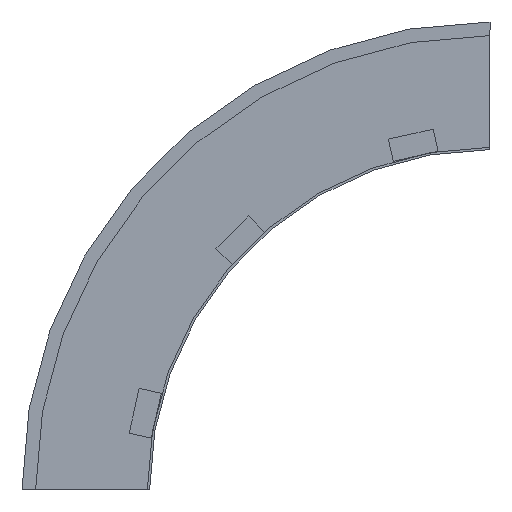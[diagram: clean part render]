
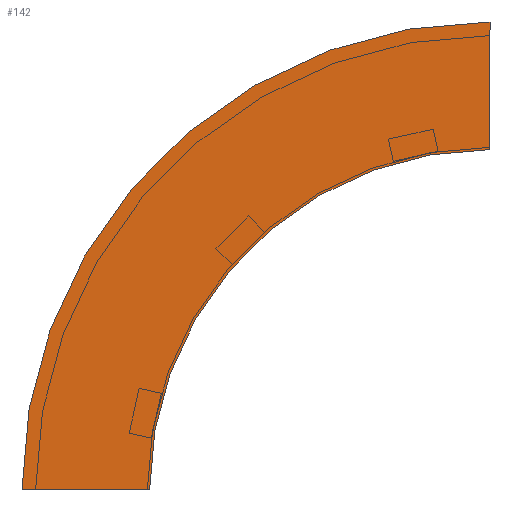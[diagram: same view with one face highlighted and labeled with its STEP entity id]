
A CAD part, left-side view. The second image highlights one B-rep face of the part: STEP entity #142.
In plain terms, the highlighted planar face has unit normal (-1, 0, 0) as drawn and (1, 0, 0) by its records, which use the part's own axes.
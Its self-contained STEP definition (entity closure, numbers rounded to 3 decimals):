
#28 = CARTESIAN_POINT ( 'NONE',  ( 0., -300., 0. ) ) ;
#34 = CIRCLE ( 'NONE', #82, 300. ) ;
#35 = ORIENTED_EDGE ( 'NONE', *, *, #509, .T. ) ;
#39 = LINE ( 'NONE', #44, #443 ) ;
#44 = CARTESIAN_POINT ( 'NONE',  ( 0., -300., 300. ) ) ;
#77 = DIRECTION ( 'NONE',  ( 0., 0., -1. ) ) ;
#82 = AXIS2_PLACEMENT_3D ( 'NONE', #28, #187, #152 ) ;
#86 = VERTEX_POINT ( 'NONE', #529 ) ;
#103 = CARTESIAN_POINT ( 'NONE',  ( 0., -300., 300. ) ) ;
#110 = CARTESIAN_POINT ( 'NONE',  ( 0., -300., 412.5 ) ) ;
#119 = ORIENTED_EDGE ( 'NONE', *, *, #486, .F. ) ;
#142 = ADVANCED_FACE ( 'NONE', ( #342 ), #569, .T. ) ;
#152 = DIRECTION ( 'NONE',  ( 0., 1., 0. ) ) ;
#175 = AXIS2_PLACEMENT_3D ( 'NONE', #503, #553, #464 ) ;
#187 = DIRECTION ( 'NONE',  ( 1., 0., 0. ) ) ;
#208 = CIRCLE ( 'NONE', #175, 412.5 ) ;
#214 = EDGE_CURVE ( 'NONE', #372, #543, #208, .T. ) ;
#228 = VECTOR ( 'NONE', #439, 1000. ) ;
#259 = VERTEX_POINT ( 'NONE', #103 ) ;
#261 = CARTESIAN_POINT ( 'NONE',  ( 0., 0., 0. ) ) ;
#265 = LINE ( 'NONE', #261, #228 ) ;
#332 = EDGE_LOOP ( 'NONE', ( #564, #119, #376, #35 ) ) ;
#342 = FACE_OUTER_BOUND ( 'NONE', #332, .T. ) ;
#372 = VERTEX_POINT ( 'NONE', #512 ) ;
#375 = EDGE_CURVE ( 'NONE', #86, #259, #34, .T. ) ;
#376 = ORIENTED_EDGE ( 'NONE', *, *, #375, .F. ) ;
#391 = DIRECTION ( 'NONE',  ( 0., 0., 1. ) ) ;
#429 = CARTESIAN_POINT ( 'NONE',  ( 0., 0., 0. ) ) ;
#439 = DIRECTION ( 'NONE',  ( 0., 1., 0. ) ) ;
#443 = VECTOR ( 'NONE', #391, 1000. ) ;
#464 = DIRECTION ( 'NONE',  ( 0., 1., 0. ) ) ;
#486 = EDGE_CURVE ( 'NONE', #259, #543, #39, .T. ) ;
#503 = CARTESIAN_POINT ( 'NONE',  ( 0., -300., 0. ) ) ;
#509 = EDGE_CURVE ( 'NONE', #86, #372, #265, .T. ) ;
#512 = CARTESIAN_POINT ( 'NONE',  ( 0., 112.5, 0. ) ) ;
#529 = CARTESIAN_POINT ( 'NONE',  ( 0., 0., 0. ) ) ;
#530 = DIRECTION ( 'NONE',  ( 1., 0., 0. ) ) ;
#543 = VERTEX_POINT ( 'NONE', #110 ) ;
#553 = DIRECTION ( 'NONE',  ( 1., 0., 0. ) ) ;
#555 = AXIS2_PLACEMENT_3D ( 'NONE', #429, #530, #77 ) ;
#564 = ORIENTED_EDGE ( 'NONE', *, *, #214, .T. ) ;
#569 = PLANE ( 'NONE',  #555 ) ;
